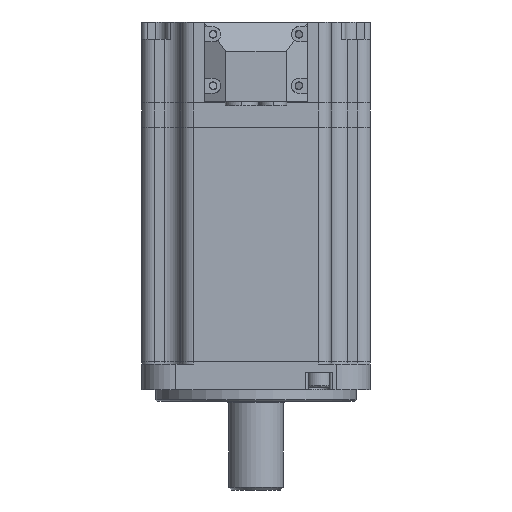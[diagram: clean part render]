
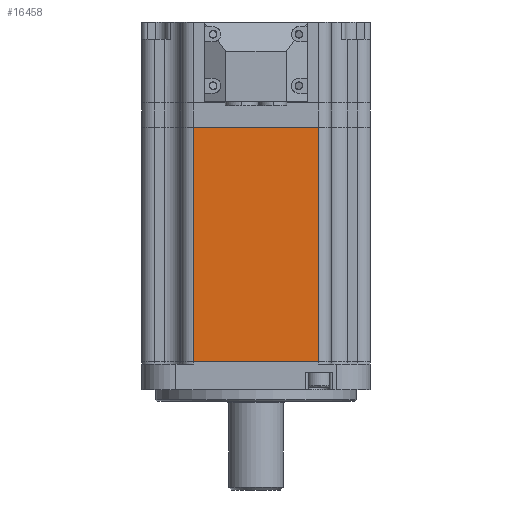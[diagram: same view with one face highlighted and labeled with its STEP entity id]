
A CAD part, front view. The second image highlights one B-rep face of the part: STEP entity #16458.
In plain terms, the highlighted planar face has unit normal (0, -1, 0).
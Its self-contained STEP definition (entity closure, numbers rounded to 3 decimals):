
#14782 = DIRECTION ( 'NONE',  ( -1., 0., 0. ) ) ;
#14783 = VECTOR ( 'NONE', #14782, 1000. ) ;
#14784 = CARTESIAN_POINT ( 'NONE',  ( -27.978, -42.874, 91.9 ) ) ;
#14785 = LINE ( 'NONE', #14784, #14783 ) ;
#16448 = EDGE_CURVE ( 'NONE', #16463, #16454, #14785, .T. ) ;
#16451 = ORIENTED_EDGE ( 'NONE', *, *, #16452, .F. ) ;
#16452 = EDGE_CURVE ( 'NONE', #16471, #16455, #18555, .T. ) ;
#16453 = EDGE_CURVE ( 'NONE', #16455, #16454, #18542, .T. ) ;
#16454 = VERTEX_POINT ( 'NONE', #18543 ) ;
#16455 = VERTEX_POINT ( 'NONE', #18545 ) ;
#16456 = EDGE_CURVE ( 'NONE', #16463, #16471, #18552, .T. ) ;
#16457 = EDGE_LOOP ( 'NONE', ( #16459, #16451, #16490, #16489 ) ) ;
#16458 = ADVANCED_FACE ( 'NONE', ( #18536 ), #18534, .F. ) ;
#16459 = ORIENTED_EDGE ( 'NONE', *, *, #16453, .F. ) ;
#16463 = VERTEX_POINT ( 'NONE', #18560 ) ;
#16471 = VERTEX_POINT ( 'NONE', #18569 ) ;
#16489 = ORIENTED_EDGE ( 'NONE', *, *, #16448, .T. ) ;
#16490 = ORIENTED_EDGE ( 'NONE', *, *, #16456, .F. ) ;
#18534 = PLANE ( 'NONE',  #18535 ) ;
#18535 = AXIS2_PLACEMENT_3D ( 'NONE', #18558, #18557, #18556 ) ;
#18536 = FACE_OUTER_BOUND ( 'NONE', #16457, .T. ) ;
#18537 = DIRECTION ( 'NONE',  ( 0., 0., -1. ) ) ;
#18540 = VECTOR ( 'NONE', #18546, 1000. ) ;
#18541 = CARTESIAN_POINT ( 'NONE',  ( -17.678, -42.874, 91.9 ) ) ;
#18542 = LINE ( 'NONE', #18541, #18540 ) ;
#18543 = CARTESIAN_POINT ( 'NONE',  ( -17.678, -42.874, 91.9 ) ) ;
#18545 = CARTESIAN_POINT ( 'NONE',  ( -17.678, -42.874, 10. ) ) ;
#18546 = DIRECTION ( 'NONE',  ( 0., 0., 1. ) ) ;
#18549 = DIRECTION ( 'NONE',  ( -1., 0., 0. ) ) ;
#18550 = VECTOR ( 'NONE', #18537, 1000. ) ;
#18551 = CARTESIAN_POINT ( 'NONE',  ( 25.822, -42.874, 91.9 ) ) ;
#18552 = LINE ( 'NONE', #18551, #18550 ) ;
#18553 = VECTOR ( 'NONE', #18549, 1000. ) ;
#18554 = CARTESIAN_POINT ( 'NONE',  ( -27.978, -42.874, 10. ) ) ;
#18555 = LINE ( 'NONE', #18554, #18553 ) ;
#18556 = DIRECTION ( 'NONE',  ( -1., 0., 0. ) ) ;
#18557 = DIRECTION ( 'NONE',  ( 0., 1., 0. ) ) ;
#18558 = CARTESIAN_POINT ( 'NONE',  ( -22.178, -42.874, 91.9 ) ) ;
#18560 = CARTESIAN_POINT ( 'NONE',  ( 25.822, -42.874, 91.9 ) ) ;
#18569 = CARTESIAN_POINT ( 'NONE',  ( 25.822, -42.874, 10. ) ) ;
